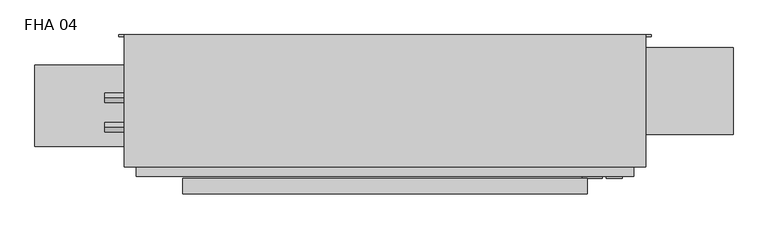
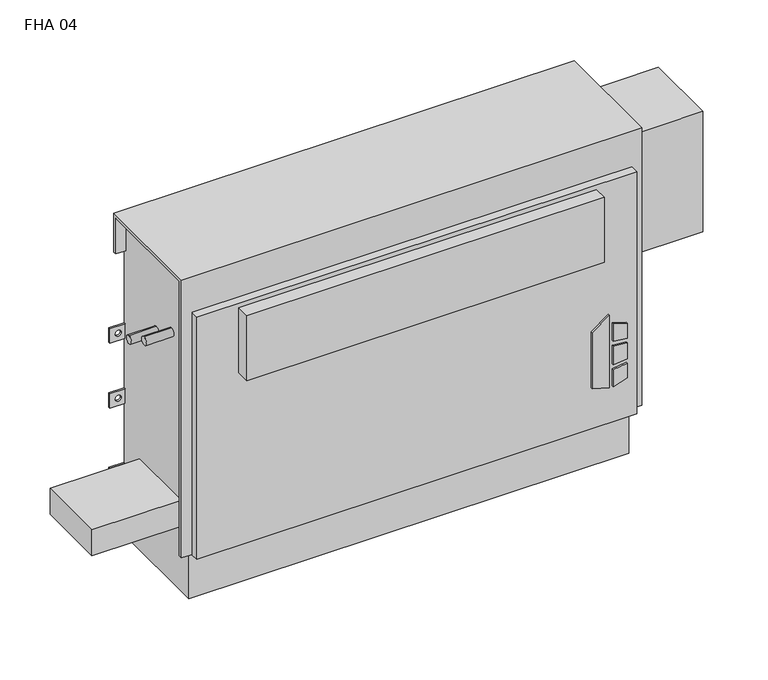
"""IFC4 building model written with IfcOpenShell, lengths in millimetres: proxy geometry, Vertical_Fan_Coil_Unit_-_FHA_-_IEC_-_2-Pipe_FS-FR_LH_2022 : FHA 04."""

from ifc_helpers import new_model, si_unit, point, frame, frame_2d, origin, place, context, project, spatial, polyline, circle_curve, trimmed, segment, composite_curve, outline, extrude, source, transform, mapped, element, save
from ifc_brep_helpers import plane_surface, revolved_surface, advanced_brep


def fha_04_9694f687(model_context):
    return source(origin(), model_context, "Body", "SolidModel", [
        extrude(outline(polyline([(172.5771459, 474.7368862), (162.6290756, 506.9102728), (304.8, 506.9102728), (281.7779939, 474.7368862), (172.5771459, 474.7368862)])), frame((0.0, 9.525, 0.0), z_axis=(0.0, 1.0, 0.0), x_axis=(0.0, 0.0, 1.0)), (0.0, 0.0, 1.0), 3.175),
        extrude(outline(polyline([(251.5764313, 513.6686058), (248.3740387, 539.75), (277.6028798, 539.75), (285.6672948, 513.6686058), (251.5764313, 513.6686058)])), frame((0.0, 9.525, 0.0), z_axis=(0.0, 1.0, 0.0), x_axis=(0.0, 0.0, 1.0)), (0.0, 0.0, 1.0), 3.175),
        extrude(outline(polyline([(199.7129044, 539.75), (196.0474034, 513.6686058), (162.6290756, 513.6686058), (171.2633128, 539.75), (199.7129044, 539.75)])), frame((0.0, 9.525, 0.0), z_axis=(0.0, 1.0, 0.0), x_axis=(0.0, 0.0, 1.0)), (0.0, 0.0, 1.0), 3.175),
        extrude(outline(polyline([(239.0280658, 539.75), (241.3098921, 513.6686058), (205.3723436, 513.6686058), (208.1136086, 539.75), (239.0280658, 539.75)])), frame((0.0, 9.525, 0.0), z_axis=(0.0, 1.0, 0.0), x_axis=(0.0, 0.0, 1.0)), (0.0, 0.0, 1.0), 3.175),
        extrude(outline(composite_curve([segment(trimmed(circle_curve(frame_2d((-317.5, 128.5875)), 9.525), [point((-327.025, 128.5875))], [point((-307.975, 128.5875))], False, "CARTESIAN"), True, "CONTINUOUS"), segment(trimmed(circle_curve(frame_2d((-317.5, 128.5875)), 9.525), [point((-307.975, 128.5875))], [point((-327.025, 128.5875))], False, "CARTESIAN"), True, "CONTINUOUS")], self_intersect=False)), frame((0.0, 0.0, 101.6), z_axis=(0.0, 0.0, 1.0), x_axis=(1.0, 0.0, 0.0)), (0.0, 0.0, 1.0), 25.4),
        extrude(outline(polyline([(-419.1, 61.9125), (-419.1, 195.2625), (-254.0, 195.2625), (-254.0, 61.9125), (-419.1, 61.9125)])), frame((0.0, 0.0, 127.0), z_axis=(0.0, 0.0, 1.0), x_axis=(1.0, 0.0, 0.0)), (0.0, 0.0, 1.0), 50.8),
        extrude(outline(polyline([(482.6, -15.875), (-177.8, -15.875), (-177.8, 9.525), (482.6, 9.525), (482.6, -15.875)])), frame((0.0, 0.0, 431.8), z_axis=(0.0, 0.0, 1.0), x_axis=(1.0, 0.0, 0.0)), (0.0, 0.0, 1.0), 127.0),
        extrude(outline(composite_curve([segment(trimmed(circle_curve(frame_2d((93.1926, 488.0102)), 7.9375), [point((93.1926, 495.9477))], [point((93.1926, 480.0727))], False, "CARTESIAN"), True, "CONTINUOUS"), segment(trimmed(circle_curve(frame_2d((93.1926, 488.0102)), 7.9375), [point((93.1926, 480.0727))], [point((93.1926, 495.9477))], False, "CARTESIAN"), True, "CONTINUOUS")], self_intersect=False)), frame((-304.8, 0.0, 0.0), z_axis=(1.0, 0.0, 0.0), x_axis=(0.0, 1.0, 0.0)), (0.0, 0.0, 1.0), 50.8),
        extrude(outline(composite_curve([segment(trimmed(circle_curve(frame_2d((141.3002, 461.3402)), 7.9375), [point((141.3002, 469.2777))], [point((141.3002, 453.4027))], False, "CARTESIAN"), True, "CONTINUOUS"), segment(trimmed(circle_curve(frame_2d((141.3002, 461.3402)), 7.9375), [point((141.3002, 453.4027))], [point((141.3002, 469.2777))], False, "CARTESIAN"), True, "CONTINUOUS")], self_intersect=False)), frame((-304.8, 0.0, 0.0), z_axis=(1.0, 0.0, 0.0), x_axis=(0.0, 1.0, 0.0)), (0.0, 0.0, 1.0), 50.8),
        extrude(outline(polyline([(720.725, 223.266), (720.725, 81.534), (558.8, 81.534), (558.8, 223.266), (720.725, 223.266)])), frame((0.0, 0.0, 349.25), z_axis=(0.0, 0.0, 1.0), x_axis=(1.0, 0.0, 0.0)), (0.0, 0.0, 1.0), 234.95),
        advanced_brep(
        [(577.85, 244.475, 635.0), (-273.05, 244.475, 635.0), (-273.05, 28.575, 635.0), (577.85, 28.575, 635.0), (-254.0, 244.475, 0.0), (558.8, 244.475, 0.0), (558.8, 38.1, 0.0), (-254.0, 38.1, 0.0), (577.85, 244.475, 558.8), (558.8, 244.475, 558.8), (558.8, 244.475, 414.3375), (587.375, 244.475, 414.3375), (587.375, 244.475, 385.7625), (558.8, 244.475, 385.7625), (558.8, 244.475, 287.3375), (587.375, 244.475, 287.3375), (587.375, 244.475, 258.7625), (558.8, 244.475, 258.7625), (558.8, 244.475, 141.2875), (587.375, 244.475, 141.2875), (587.375, 244.475, 112.7125), (558.8, 244.475, 112.7125), (-254.0, 244.475, 112.7125), (-282.575, 244.475, 112.7125), (-282.575, 244.475, 141.2875), (-254.0, 244.475, 141.2875), (-254.0, 244.475, 258.7625), (-282.575, 244.475, 258.7625), (-282.575, 244.475, 287.3375), (-254.0, 244.475, 287.3375), (-254.0, 244.475, 385.7625), (-282.575, 244.475, 385.7625), (-282.575, 244.475, 414.3375), (-254.0, 244.475, 414.3375), (-254.0, 244.475, 558.8), (-273.05, 244.475, 558.8), (577.0626, 244.475, 127.0), (565.9374, 244.475, 127.0), (-261.1374, 244.475, 127.0), (-272.2626, 244.475, 127.0), (577.0626, 244.475, 273.05), (565.9374, 244.475, 273.05), (-261.1374, 244.475, 273.05), (-272.2626, 244.475, 273.05), (577.0626, 244.475, 400.05), (565.9374, 244.475, 400.05), (-261.1374, 244.475, 400.05), (-272.2626, 244.475, 400.05), (-273.05, 238.125, 558.8), (-273.05, 238.125, 628.65), (-273.05, 34.925, 628.65), (-273.05, 34.925, 92.075), (-273.05, 28.575, 92.075), (558.8, 12.7, 565.15), (-254.0, 12.7, 565.15), (-254.0, 12.7, 92.075), (558.8, 12.7, 92.075), (577.85, 28.575, 92.075), (577.85, 34.925, 92.075), (577.85, 34.925, 628.65), (577.85, 238.125, 628.65), (577.85, 238.125, 558.8), (-254.0, 28.575, 92.075), (-254.0, 28.575, 565.15), (558.8, 28.575, 565.15), (558.8, 28.575, 92.075), (-254.0, 34.925, 92.075), (-254.0, 38.1, 92.075), (558.8, 38.1, 92.075), (558.8, 34.925, 92.075), (558.8, 241.3, 112.7125), (558.8, 241.3, 141.2875), (558.8, 241.3, 258.7625), (558.8, 241.3, 287.3375), (558.8, 241.3, 385.7625), (558.8, 241.3, 414.3375), (558.8, 238.125, 558.8), (558.8, 238.125, 628.65), (558.8, 34.925, 628.65), (-254.0, 34.925, 628.65), (-254.0, 238.125, 628.65), (-254.0, 238.125, 558.8), (-254.0, 241.3, 414.3375), (-254.0, 241.3, 385.7625), (-254.0, 241.3, 287.3375), (-254.0, 241.3, 258.7625), (-254.0, 241.3, 141.2875), (-254.0, 241.3, 112.7125), (587.375, 241.3, 112.7125), (587.375, 241.3, 141.2875), (565.9374, 241.3, 127.0), (577.0626, 241.3, 127.0), (587.375, 241.3, 258.7625), (587.375, 241.3, 287.3375), (565.9374, 241.3, 273.05), (577.0626, 241.3, 273.05), (587.375, 241.3, 385.7625), (587.375, 241.3, 414.3375), (565.9374, 241.3, 400.05), (577.0626, 241.3, 400.05), (-282.575, 241.3, 141.2875), (-282.575, 241.3, 112.7125), (-272.2626, 241.3, 127.0), (-261.1374, 241.3, 127.0), (-282.575, 241.3, 287.3375), (-282.575, 241.3, 258.7625), (-272.2626, 241.3, 273.05), (-261.1374, 241.3, 273.05), (-282.575, 241.3, 414.3375), (-282.575, 241.3, 385.7625), (-272.2626, 241.3, 400.05), (-261.1374, 241.3, 400.05)],
        [
            (0, 1),
            (1, 2),
            (2, 3),
            (3, 0),
            (4, 5),
            (5, 6),
            (6, 7),
            (7, 4),
            (0, 8),
            (8, 9),
            (9, 10),
            (10, 11),
            (11, 12),
            (12, 13),
            (13, 14),
            (14, 15),
            (15, 16),
            (16, 17),
            (17, 18),
            (18, 19),
            (19, 20),
            (20, 21),
            (21, 5),
            (4, 22),
            (22, 23),
            (23, 24),
            (24, 25),
            (25, 26),
            (26, 27),
            (27, 28),
            (28, 29),
            (29, 30),
            (30, 31),
            (31, 32),
            (32, 33),
            (33, 34),
            (34, 35),
            (35, 1),
            (36, 37, circle_curve(frame((571.5, 244.475, 127.0), z_axis=(0.0, -1.0, 0.0), x_axis=(-1.0, 0.0, 0.0)), 5.5626)),
            (37, 36, circle_curve(frame((571.5, 244.475, 127.0), z_axis=(0.0, -1.0, 0.0), x_axis=(-1.0, 0.0, 0.0)), 5.5626)),
            (38, 39, circle_curve(frame((-266.7, 244.475, 127.0), z_axis=(0.0, -1.0, 0.0), x_axis=(-1.0, 0.0, 0.0)), 5.5626)),
            (39, 38, circle_curve(frame((-266.7, 244.475, 127.0), z_axis=(0.0, -1.0, 0.0), x_axis=(-1.0, 0.0, 0.0)), 5.5626)),
            (40, 41, circle_curve(frame((571.5, 244.475, 273.05), z_axis=(0.0, -1.0, 0.0), x_axis=(-1.0, 0.0, 0.0)), 5.5626)),
            (41, 40, circle_curve(frame((571.5, 244.475, 273.05), z_axis=(0.0, -1.0, 0.0), x_axis=(-1.0, 0.0, 0.0)), 5.5626)),
            (42, 43, circle_curve(frame((-266.7, 244.475, 273.05), z_axis=(0.0, -1.0, 0.0), x_axis=(-1.0, 0.0, 0.0)), 5.5626)),
            (43, 42, circle_curve(frame((-266.7, 244.475, 273.05), z_axis=(0.0, -1.0, 0.0), x_axis=(-1.0, 0.0, 0.0)), 5.5626)),
            (44, 45, circle_curve(frame((571.5, 244.475, 400.05), z_axis=(0.0, -1.0, 0.0), x_axis=(-1.0, 0.0, 0.0)), 5.5626)),
            (45, 44, circle_curve(frame((571.5, 244.475, 400.05), z_axis=(0.0, -1.0, 0.0), x_axis=(-1.0, 0.0, 0.0)), 5.5626)),
            (46, 47, circle_curve(frame((-266.7, 244.475, 400.05), z_axis=(0.0, -1.0, 0.0), x_axis=(-1.0, 0.0, 0.0)), 5.5626)),
            (47, 46, circle_curve(frame((-266.7, 244.475, 400.05), z_axis=(0.0, -1.0, 0.0), x_axis=(-1.0, 0.0, 0.0)), 5.5626)),
            (35, 48),
            (48, 49),
            (49, 50),
            (50, 51),
            (51, 52),
            (52, 2),
            (53, 54),
            (54, 55),
            (55, 56),
            (56, 53),
            (3, 57),
            (57, 58),
            (58, 59),
            (59, 60),
            (60, 61),
            (61, 8),
            (52, 62),
            (62, 63),
            (63, 64),
            (64, 65),
            (65, 57),
            (53, 64),
            (63, 54),
            (55, 62),
            (51, 66),
            (66, 67),
            (67, 68),
            (68, 69),
            (69, 58),
            (65, 56),
            (6, 68),
            (67, 7),
            (21, 70),
            (70, 71),
            (71, 18),
            (17, 72),
            (72, 73),
            (73, 14),
            (13, 74),
            (74, 75),
            (75, 10),
            (9, 76),
            (76, 77),
            (77, 78),
            (78, 69),
            (66, 79),
            (79, 80),
            (80, 81),
            (81, 34),
            (33, 82),
            (82, 83),
            (83, 30),
            (29, 84),
            (84, 85),
            (85, 26),
            (25, 86),
            (86, 87),
            (87, 22),
            (76, 61),
            (60, 77),
            (78, 59),
            (50, 79),
            (81, 48),
            (80, 49),
            (70, 88),
            (88, 89),
            (89, 71),
            (90, 91, circle_curve(frame((571.5, 241.3, 127.0), z_axis=(0.0, 1.0, 0.0), x_axis=(-1.0, 0.0, 0.0)), 5.5626)),
            (91, 90, circle_curve(frame((571.5, 241.3, 127.0), z_axis=(0.0, 1.0, 0.0), x_axis=(-1.0, 0.0, 0.0)), 5.5626)),
            (92, 93),
            (93, 73),
            (72, 92),
            (94, 95, circle_curve(frame((571.5, 241.3, 273.05), z_axis=(0.0, 1.0, 0.0), x_axis=(-1.0, 0.0, 0.0)), 5.5626)),
            (95, 94, circle_curve(frame((571.5, 241.3, 273.05), z_axis=(0.0, 1.0, 0.0), x_axis=(-1.0, 0.0, 0.0)), 5.5626)),
            (96, 97),
            (97, 75),
            (74, 96),
            (98, 99, circle_curve(frame((571.5, 241.3, 400.05), z_axis=(0.0, 1.0, 0.0), x_axis=(-1.0, 0.0, 0.0)), 5.5626)),
            (99, 98, circle_curve(frame((571.5, 241.3, 400.05), z_axis=(0.0, 1.0, 0.0), x_axis=(-1.0, 0.0, 0.0)), 5.5626)),
            (100, 101),
            (101, 87),
            (86, 100),
            (102, 103, circle_curve(frame((-266.7, 241.3, 127.0), z_axis=(0.0, 1.0, 0.0), x_axis=(-1.0, 0.0, 0.0)), 5.5626)),
            (103, 102, circle_curve(frame((-266.7, 241.3, 127.0), z_axis=(0.0, 1.0, 0.0), x_axis=(-1.0, 0.0, 0.0)), 5.5626)),
            (84, 104),
            (104, 105),
            (105, 85),
            (106, 107, circle_curve(frame((-266.7, 241.3, 273.05), z_axis=(0.0, 1.0, 0.0), x_axis=(-1.0, 0.0, 0.0)), 5.5626)),
            (107, 106, circle_curve(frame((-266.7, 241.3, 273.05), z_axis=(0.0, 1.0, 0.0), x_axis=(-1.0, 0.0, 0.0)), 5.5626)),
            (108, 109),
            (109, 83),
            (82, 108),
            (110, 111, circle_curve(frame((-266.7, 241.3, 400.05), z_axis=(0.0, 1.0, 0.0), x_axis=(-1.0, 0.0, 0.0)), 5.5626)),
            (111, 110, circle_curve(frame((-266.7, 241.3, 400.05), z_axis=(0.0, 1.0, 0.0), x_axis=(-1.0, 0.0, 0.0)), 5.5626)),
            (89, 19),
            (88, 20),
            (16, 92),
            (93, 15),
            (12, 96),
            (97, 11),
            (24, 100),
            (101, 23),
            (105, 27),
            (104, 28),
            (32, 108),
            (109, 31),
            (90, 37),
            (36, 91),
            (102, 39),
            (38, 103),
            (94, 41),
            (40, 95),
            (106, 43),
            (42, 107),
            (98, 45),
            (44, 99),
            (110, 47),
            (46, 111),
        ],
        [
            plane_surface(frame((-273.05, 244.475, 635.0), z_axis=(0.0, 0.0, 1.0), x_axis=(-1.0, 0.0, 0.0))),
            plane_surface(frame((-273.05, 244.475, 0.0), z_axis=(0.0, 0.0, -1.0), x_axis=(1.0, 0.0, 0.0))),
            plane_surface(frame((577.85, 244.475, 635.0), z_axis=(0.0, 1.0, 0.0), x_axis=(0.0, 0.0, -1.0))),
            plane_surface(frame((-273.05, 244.475, 635.0), z_axis=(-1.0, 0.0, 0.0), x_axis=(0.0, 0.0, -1.0))),
            plane_surface(frame((-273.05, 12.7, 635.0), z_axis=(0.0, -1.0, 0.0), x_axis=(0.0, 0.0, -1.0))),
            plane_surface(frame((577.85, 12.7, 635.0), z_axis=(1.0, 0.0, 0.0), x_axis=(0.0, 0.0, -1.0))),
            plane_surface(frame((-400.05, 28.575, 635.0), z_axis=(0.0, -1.0, 0.0), x_axis=(1.0, 0.0, 0.0))),
            plane_surface(frame((-400.05, 28.575, 565.15), z_axis=(0.0, 0.0, 1.0), x_axis=(1.0, 0.0, 0.0))),
            plane_surface(frame((-273.05, 12.7, 92.075), z_axis=(0.0, 0.0, -1.0), x_axis=(1.0, 0.0, 0.0))),
            plane_surface(frame((-273.05, 38.1, 92.075), z_axis=(0.0, -1.0, 0.0), x_axis=(1.0, 0.0, 0.0))),
            plane_surface(frame((558.8, 28.575, 92.075), z_axis=(1.0, 0.0, 0.0), x_axis=(0.0, -1.0, 0.0))),
            plane_surface(frame((-254.0, 28.575, 565.15), z_axis=(-1.0, 0.0, 0.0), x_axis=(0.0, -1.0, 0.0))),
            plane_surface(frame((558.8, 244.475, 0.0), z_axis=(1.0, 0.0, 0.0), x_axis=(0.0, -1.0, 0.0))),
            plane_surface(frame((-254.0, 244.475, 92.075), z_axis=(-1.0, 0.0, 0.0), x_axis=(0.0, -1.0, 0.0))),
            plane_surface(frame((558.8, 238.125, 628.65), z_axis=(0.0, -1.0, 0.0), x_axis=(1.0, 0.0, 0.0))),
            plane_surface(frame((558.8, 238.125, 558.8), z_axis=(0.0, 0.0, -1.0), x_axis=(1.0, 0.0, 0.0))),
            plane_surface(frame((558.8, 34.925, 92.075), z_axis=(0.0, 1.0, 0.0), x_axis=(1.0, 0.0, 0.0))),
            plane_surface(frame((558.8, 34.925, 628.65), z_axis=(0.0, 0.0, -1.0), x_axis=(1.0, 0.0, 0.0))),
            plane_surface(frame((-254.0, 34.925, 628.65), z_axis=(0.0, 1.0, 0.0), x_axis=(-1.0, 0.0, 0.0))),
            plane_surface(frame((-254.0, 244.475, 558.8), z_axis=(0.0, 0.0, -1.0), x_axis=(-1.0, 0.0, 0.0))),
            plane_surface(frame((-254.0, 238.125, 558.8), z_axis=(0.0, -1.0, 0.0), x_axis=(-1.0, 0.0, 0.0))),
            plane_surface(frame((-254.0, 238.125, 628.65), z_axis=(0.0, 0.0, -1.0), x_axis=(-1.0, 0.0, 0.0))),
            plane_surface(frame((587.375, 241.3, 141.2875), z_axis=(0.0, -1.0, 0.0), x_axis=(-1.0, 0.0, 0.0))),
            plane_surface(frame((558.8, 244.475, 141.2875), z_axis=(0.0, 0.0, 1.0), x_axis=(0.0, -1.0, 0.0))),
            plane_surface(frame((587.375, 244.475, 141.2875), z_axis=(1.0, 0.0, 0.0), x_axis=(0.0, -1.0, 0.0))),
            plane_surface(frame((587.375, 244.475, 112.7125), z_axis=(0.0, 0.0, -1.0), x_axis=(0.0, -1.0, 0.0))),
            plane_surface(frame((587.375, 244.475, 258.7625), z_axis=(0.0, 0.0, -1.0), x_axis=(0.0, -1.0, 0.0))),
            plane_surface(frame((558.8, 244.475, 287.3375), z_axis=(0.0, 0.0, 1.0), x_axis=(0.0, -1.0, 0.0))),
            plane_surface(frame((587.375, 244.475, 287.3375), z_axis=(1.0, 0.0, 0.0), x_axis=(0.0, -1.0, 0.0))),
            plane_surface(frame((587.375, 244.475, 385.7625), z_axis=(0.0, 0.0, -1.0), x_axis=(0.0, -1.0, 0.0))),
            plane_surface(frame((558.8, 244.475, 414.3375), z_axis=(0.0, 0.0, 1.0), x_axis=(0.0, -1.0, 0.0))),
            plane_surface(frame((587.375, 244.475, 414.3375), z_axis=(1.0, 0.0, 0.0), x_axis=(0.0, -1.0, 0.0))),
            plane_surface(frame((-282.575, 244.475, 141.2875), z_axis=(0.0, 0.0, 1.0), x_axis=(0.0, -1.0, 0.0))),
            plane_surface(frame((-254.0, 244.475, 112.7125), z_axis=(0.0, 0.0, -1.0), x_axis=(0.0, -1.0, 0.0))),
            plane_surface(frame((-282.575, 244.475, 112.7125), z_axis=(-1.0, 0.0, 0.0), x_axis=(0.0, -1.0, 0.0))),
            plane_surface(frame((-254.0, 244.475, 258.7625), z_axis=(0.0, 0.0, -1.0), x_axis=(0.0, -1.0, 0.0))),
            plane_surface(frame((-282.575, 244.475, 258.7625), z_axis=(-1.0, 0.0, 0.0), x_axis=(0.0, -1.0, 0.0))),
            plane_surface(frame((-282.575, 244.475, 287.3375), z_axis=(0.0, 0.0, 1.0), x_axis=(0.0, -1.0, 0.0))),
            plane_surface(frame((-282.575, 244.475, 414.3375), z_axis=(0.0, 0.0, 1.0), x_axis=(0.0, -1.0, 0.0))),
            plane_surface(frame((-254.0, 244.475, 385.7625), z_axis=(0.0, 0.0, -1.0), x_axis=(0.0, -1.0, 0.0))),
            plane_surface(frame((-282.575, 244.475, 385.7625), z_axis=(-1.0, 0.0, 0.0), x_axis=(0.0, -1.0, 0.0))),
            revolved_surface(polyline([(565.9374, 241.3, 127.0), (565.9374, 244.475, 127.0)]), (571.5, 244.475, 127.0), (0.0, -1.0, 0.0)),
            revolved_surface(polyline([(-272.26259999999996, 241.3, 127.0), (-272.26259999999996, 244.475, 127.0)]), (-266.7, 244.475, 127.0), (0.0, -1.0, 0.0)),
            revolved_surface(polyline([(565.9374, 241.3, 273.05), (565.9374, 244.475, 273.05)]), (571.5, 244.475, 273.05), (0.0, -1.0, 0.0)),
            revolved_surface(polyline([(-272.26259999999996, 241.3, 273.05), (-272.26259999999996, 244.475, 273.05)]), (-266.7, 244.475, 273.05), (0.0, -1.0, 0.0)),
            revolved_surface(polyline([(565.9374, 241.3, 400.05), (565.9374, 244.475, 400.05)]), (571.5, 244.475, 400.05), (0.0, -1.0, 0.0)),
            revolved_surface(polyline([(-272.26259999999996, 241.3, 400.05), (-272.26259999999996, 244.475, 400.05)]), (-266.7, 244.475, 400.05), (0.0, -1.0, 0.0)),
        ],
        [
            (0, [[1, 2, 3, 4]]),
            (1, [[5, 6, 7, 8]]),
            (2, [[-1, 9, 10, 11, 12, 13, 14, 15, 16, 17, 18, 19, 20, 21, 22, 23, -5, 24, 25, 26, 27, 28, 29, 30, 31, 32, 33, 34, 35, 36, 37, 38], [39, 40], [41, 42], [43, 44], [45, 46], [47, 48], [49, 50]]),
            (3, [[-2, -38, 51, 52, 53, 54, 55, 56]]),
            (4, [[57, 58, 59, 60]]),
            (5, [[-4, 61, 62, 63, 64, 65, 66, -9]]),
            (6, [[-3, -56, 67, 68, 69, 70, 71, -61]]),
            (7, [[-57, 72, -69, 73]]),
            (8, [[-59, 74, -67, -55, 75, 76, 77, 78, 79, -62, -71, 80]]),
            (9, [[-7, 81, -77, 82]]),
            (10, [[-70, -72, -60, -80]]),
            (11, [[-68, -74, -58, -73]]),
            (12, [[-6, -23, 83, 84, 85, -19, 86, 87, 88, -15, 89, 90, 91, -11, 92, 93, 94, 95, -78, -81]]),
            (13, [[-8, -82, -76, 96, 97, 98, 99, -36, 100, 101, 102, -32, 103, 104, 105, -28, 106, 107, 108, -24]]),
            (14, [[-93, 109, -65, 110]]),
            (15, [[-92, -10, -66, -109]]),
            (16, [[-95, 111, -63, -79]]),
            (17, [[-94, -110, -64, -111]]),
            (18, [[-96, -75, -54, 112]]),
            (19, [[-99, 113, -51, -37]]),
            (20, [[-98, 114, -52, -113]]),
            (21, [[-97, -112, -53, -114]]),
            (22, [[115, 116, 117, -84], [118, 119]]),
            (22, [[120, 121, -87, 122], [123, 124]]),
            (22, [[125, 126, -90, 127], [128, 129]]),
            (22, [[130, 131, -107, 132], [133, 134]]),
            (22, [[135, 136, 137, -104], [138, 139]]),
            (22, [[140, 141, -101, 142], [143, 144]]),
            (23, [[-117, 145, -20, -85]]),
            (24, [[-116, 146, -21, -145]]),
            (25, [[-115, -83, -22, -146]]),
            (26, [[-122, -86, -18, 147]]),
            (27, [[-121, 148, -16, -88]]),
            (28, [[-120, -147, -17, -148]]),
            (29, [[-127, -89, -14, 149]]),
            (30, [[-126, 150, -12, -91]]),
            (31, [[-125, -149, -13, -150]]),
            (32, [[-132, -106, -27, 151]]),
            (33, [[-131, 152, -25, -108]]),
            (34, [[-130, -151, -26, -152]]),
            (35, [[-137, 153, -29, -105]]),
            (36, [[-136, 154, -30, -153]]),
            (37, [[-135, -103, -31, -154]]),
            (38, [[-142, -100, -35, 155]]),
            (39, [[-141, 156, -33, -102]]),
            (40, [[-140, -155, -34, -156]]),
            (41, [[157, -39, 158, -118]]),
            (41, [[-157, -119, -158, -40]]),
            (42, [[159, -41, 160, -133]]),
            (42, [[-159, -134, -160, -42]]),
            (43, [[161, -43, 162, -123]]),
            (43, [[-161, -124, -162, -44]]),
            (44, [[163, -45, 164, -138]]),
            (44, [[-163, -139, -164, -46]]),
            (45, [[165, -47, 166, -128]]),
            (45, [[-165, -129, -166, -48]]),
            (46, [[167, -49, 168, -143]]),
            (46, [[-167, -144, -168, -50]]),
        ],
    ),
    ])


if __name__ == "__main__":
    model = new_model("IFC4")
    model_context = context("Model", 3, world=origin())
    ifc_project = project(units=[si_unit("LENGTHUNIT", "METRE", prefix="MILLI")], contexts=[model_context])
    site = spatial("IfcSite", under=ifc_project)
    building = spatial("IfcBuilding", under=site)
    placement = place(None, origin())
    fha_04_shape = fha_04_9694f687(model_context)
    element("IfcBuildingElementProxy", 1, Name="Vertical_Fan_Coil_Unit_-_FHA_-_IEC_-_2-Pipe_FS-FR_LH_2022 : FHA 04", ObjectType="Vertical_Fan_Coil_Unit_-_FHA_-_IEC_-_2-Pipe_FS-FR_LH_2022 : FHA 04", at=placement, inside=building, context=model_context, shape_type="MappedRepresentation", body=[
        mapped(fha_04_shape, transform((0.0, 0.0, 0.0), x_axis=(1.0, 0.0, 0.0), y_axis=(0.0, 1.0, 0.0), z_axis=(0.0, 0.0, 1.0))),
    ])
    save(model, "model.ifc")
